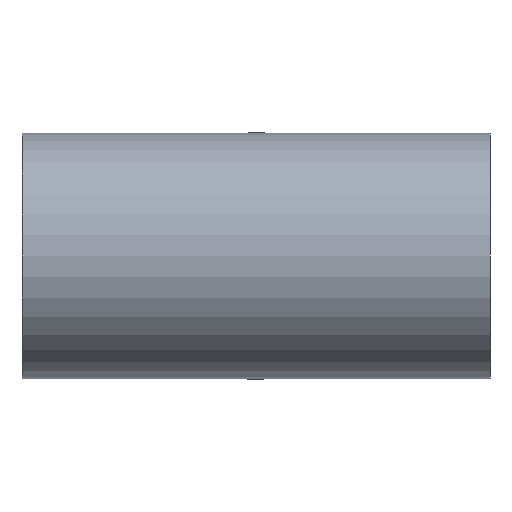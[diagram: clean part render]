
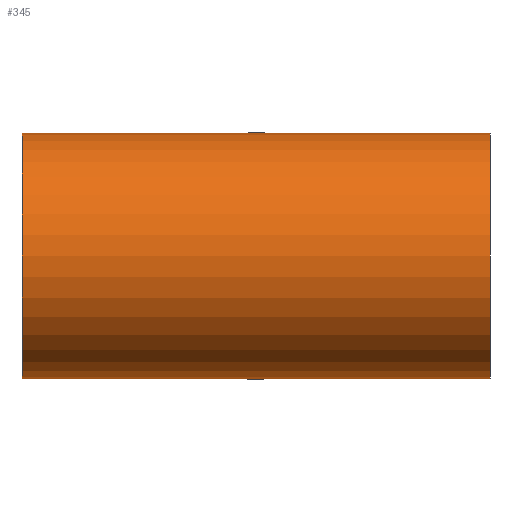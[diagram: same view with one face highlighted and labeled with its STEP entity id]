
A CAD part, left-side view. The second image highlights one B-rep face of the part: STEP entity #345.
In plain terms, the highlighted cylindrical face has radius 21 mm (diameter 42 mm), a full revolution.
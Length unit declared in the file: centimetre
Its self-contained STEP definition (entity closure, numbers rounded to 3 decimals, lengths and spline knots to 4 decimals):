
#54=FACE_BOUND('',#132,.T.);
#55=FACE_BOUND('',#133,.T.);
#78=CIRCLE('',#384,2.1);
#79=CIRCLE('',#385,2.1);
#99=FACE_OUTER_BOUND('',#131,.T.);
#131=EDGE_LOOP('',(#274));
#132=EDGE_LOOP('',(#275,#276));
#133=EDGE_LOOP('',(#277));
#151=ELLIPSE('',#357,2.9698,2.1);
#152=ELLIPSE('',#358,2.9698,2.1);
#155=VERTEX_POINT('',#489);
#156=VERTEX_POINT('',#490);
#179=VERTEX_POINT('',#3585);
#180=VERTEX_POINT('',#3587);
#185=EDGE_CURVE('',#155,#156,#151,.T.);
#186=EDGE_CURVE('',#156,#155,#152,.T.);
#216=EDGE_CURVE('',#179,#179,#78,.T.);
#217=EDGE_CURVE('',#180,#180,#79,.T.);
#274=ORIENTED_EDGE('',*,*,#216,.F.);
#275=ORIENTED_EDGE('',*,*,#185,.T.);
#276=ORIENTED_EDGE('',*,*,#186,.T.);
#277=ORIENTED_EDGE('',*,*,#217,.F.);
#301=CYLINDRICAL_SURFACE('',#383,2.1);
#345=ADVANCED_FACE('',(#99,#54,#55),#301,.T.);
#357=AXIS2_PLACEMENT_3D('',#491,#402,#403);
#358=AXIS2_PLACEMENT_3D('',#492,#404,#405);
#383=AXIS2_PLACEMENT_3D('',#3584,#457,#458);
#384=AXIS2_PLACEMENT_3D('',#3586,#459,#460);
#385=AXIS2_PLACEMENT_3D('',#3588,#461,#462);
#402=DIRECTION('center_axis',(-0.707,0.707,0.));
#403=DIRECTION('ref_axis',(0.707,0.707,0.));
#404=DIRECTION('center_axis',(-0.707,-0.707,0.));
#405=DIRECTION('ref_axis',(-0.707,0.707,0.));
#457=DIRECTION('center_axis',(0.,-1.,0.));
#458=DIRECTION('ref_axis',(1.,0.,0.));
#459=DIRECTION('center_axis',(0.,1.,0.));
#460=DIRECTION('ref_axis',(1.,0.,0.));
#461=DIRECTION('center_axis',(0.,-1.,0.));
#462=DIRECTION('ref_axis',(1.,0.,0.));
#489=CARTESIAN_POINT('',(0.,0.,2.1));
#490=CARTESIAN_POINT('',(0.,0.,-2.1));
#491=CARTESIAN_POINT('Origin',(0.,0.,0.));
#492=CARTESIAN_POINT('Origin',(0.,0.,0.));
#3584=CARTESIAN_POINT('Origin',(0.,0.,0.));
#3585=CARTESIAN_POINT('',(-2.1,4.,0.));
#3586=CARTESIAN_POINT('Origin',(0.,4.,0.));
#3587=CARTESIAN_POINT('',(-2.1,-4.,0.));
#3588=CARTESIAN_POINT('Origin',(0.,-4.,0.));
